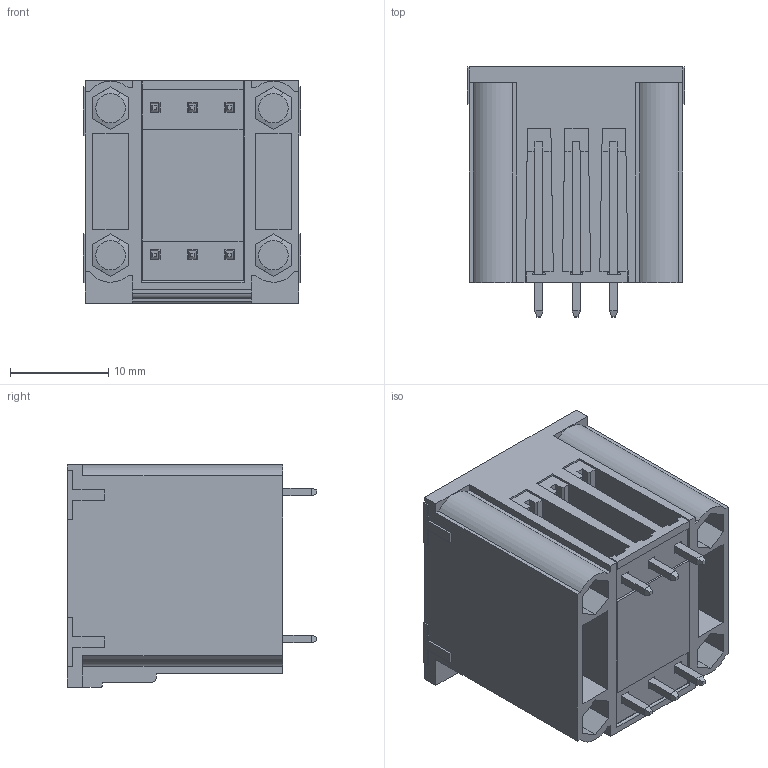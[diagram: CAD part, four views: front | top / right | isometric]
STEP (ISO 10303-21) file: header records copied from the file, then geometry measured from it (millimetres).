
FILE_DESCRIPTION((''),'2;1');
FILE_NAME('VL06','2022-06-15T',('renkang.li'),(''),'CREO PARAMETRIC BY PTC INC, 2016260','CREO PARAMETRIC BY PTC INC, 2016260','');
FILE_SCHEMA(('CONFIG_CONTROL_DESIGN'));
Products named in the file (1): VL06
Bounding box: 22.22 x 25.5 x 22.7 mm (x, y, z)
Volume: 4440.3 mm3; surface area: 9704.1 mm2
Topology: 1 solids, 13 shells, 895 faces, 2448 edges, 1588 vertices
Faces by surface type: plane 685, cylinder 130, cone 44, bspline 24, torus 12
Entity records: 44854 total; most frequent: CARTESIAN_POINT 22557, ORIENTED_EDGE 4880, DIRECTION 4146, EDGE_CURVE 2440, VECTOR 1948, LINE 1948, VERTEX_POINT 1588, AXIS2_PLACEMENT_3D 1099
